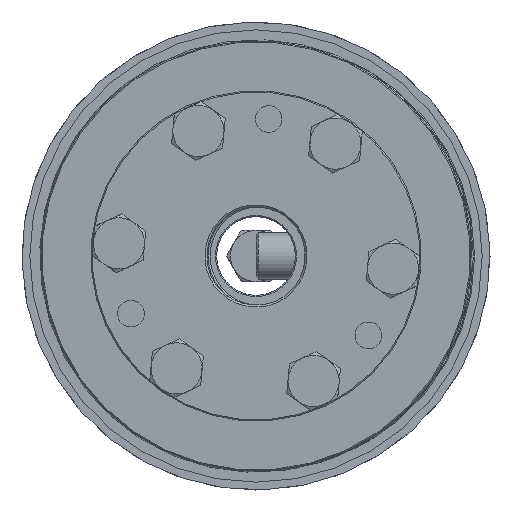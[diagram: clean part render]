
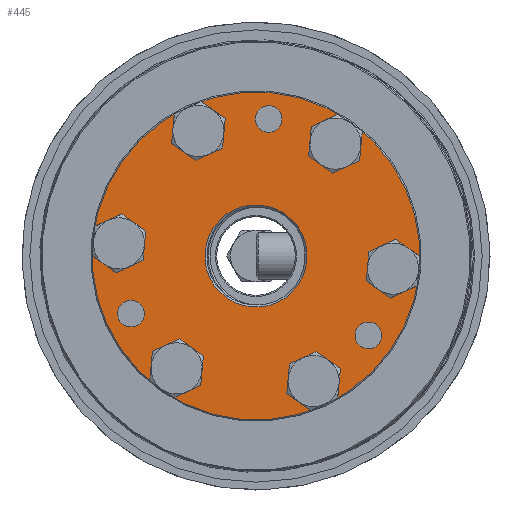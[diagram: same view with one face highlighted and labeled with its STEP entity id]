
A CAD part, left-side view. The second image highlights one B-rep face of the part: STEP entity #445.
In plain terms, the highlighted planar face has unit normal (-1, 0, 0).
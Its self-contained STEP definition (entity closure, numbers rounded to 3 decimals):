
#445 = ADVANCED_FACE( 'NONE', ( #757, #758, #759, #760, #761, #762, #763, #764, #765, #766, #767 ), #768, .F. );
#757 = FACE_OUTER_BOUND( '', #1269, .T. );
#758 = FACE_BOUND( '', #1270, .T. );
#759 = FACE_BOUND( '', #1271, .T. );
#760 = FACE_BOUND( '', #1272, .T. );
#761 = FACE_BOUND( '', #1273, .T. );
#762 = FACE_BOUND( '', #1274, .T. );
#763 = FACE_BOUND( '', #1275, .T. );
#764 = FACE_BOUND( '', #1276, .T. );
#765 = FACE_BOUND( '', #1277, .T. );
#766 = FACE_BOUND( '', #1278, .T. );
#767 = FACE_BOUND( '', #1279, .T. );
#768 = PLANE( '', #1280 );
#1269 = EDGE_LOOP( '', ( #1973 ) );
#1270 = EDGE_LOOP( '', ( #1974 ) );
#1271 = EDGE_LOOP( '', ( #1975 ) );
#1272 = EDGE_LOOP( '', ( #1976 ) );
#1273 = EDGE_LOOP( '', ( #1977 ) );
#1274 = EDGE_LOOP( '', ( #1978 ) );
#1275 = EDGE_LOOP( '', ( #1979 ) );
#1276 = EDGE_LOOP( '', ( #1980 ) );
#1277 = EDGE_LOOP( '', ( #1981 ) );
#1278 = EDGE_LOOP( '', ( #1982 ) );
#1279 = EDGE_LOOP( '', ( #1983 ) );
#1280 = AXIS2_PLACEMENT_3D( '', #1984, #1985, #1986 );
#1973 = ORIENTED_EDGE( '', *, *, #2677, .T. );
#1974 = ORIENTED_EDGE( '', *, *, #2660, .T. );
#1975 = ORIENTED_EDGE( '', *, *, #2675, .F. );
#1976 = ORIENTED_EDGE( '', *, *, #2672, .F. );
#1977 = ORIENTED_EDGE( '', *, *, #2673, .F. );
#1978 = ORIENTED_EDGE( '', *, *, #2676, .F. );
#1979 = ORIENTED_EDGE( '', *, *, #2678, .F. );
#1980 = ORIENTED_EDGE( '', *, *, #2679, .F. );
#1981 = ORIENTED_EDGE( '', *, *, #2680, .F. );
#1982 = ORIENTED_EDGE( '', *, *, #2658, .F. );
#1983 = ORIENTED_EDGE( '', *, *, #2674, .F. );
#1984 = CARTESIAN_POINT( '', ( 0., 12.5, 0. ) );
#1985 = DIRECTION( '', ( 1., 0., 0. ) );
#1986 = DIRECTION( '', ( 0., 1., 0. ) );
#2658 = EDGE_CURVE( 'NONE', #2962, #2962, #2963, .T. );
#2660 = EDGE_CURVE( 'NONE', #2966, #2966, #2967, .T. );
#2672 = EDGE_CURVE( 'NONE', #2990, #2990, #2991, .T. );
#2673 = EDGE_CURVE( 'NONE', #2992, #2992, #2993, .T. );
#2674 = EDGE_CURVE( 'NONE', #2994, #2994, #2995, .T. );
#2675 = EDGE_CURVE( 'NONE', #2996, #2996, #2997, .T. );
#2676 = EDGE_CURVE( 'NONE', #2998, #2998, #2999, .T. );
#2677 = EDGE_CURVE( 'NONE', #3000, #3000, #3001, .T. );
#2678 = EDGE_CURVE( 'NONE', #3002, #3002, #3003, .T. );
#2679 = EDGE_CURVE( 'NONE', #3004, #3004, #3005, .T. );
#2680 = EDGE_CURVE( 'NONE', #3006, #3006, #3007, .T. );
#2962 = VERTEX_POINT( '', #3450 );
#2963 = CIRCLE( '', #3451, 3.4 );
#2966 = VERTEX_POINT( '', #3454 );
#2967 = CIRCLE( '', #3455, 13. );
#2990 = VERTEX_POINT( '', #3478 );
#2991 = CIRCLE( '', #3479, 4.25 );
#2992 = VERTEX_POINT( '', #3480 );
#2993 = CIRCLE( '', #3481, 4.25 );
#2994 = VERTEX_POINT( '', #3482 );
#2995 = CIRCLE( '', #3483, 3.4 );
#2996 = VERTEX_POINT( '', #3484 );
#2997 = CIRCLE( '', #3485, 3.4 );
#2998 = VERTEX_POINT( '', #3486 );
#2999 = CIRCLE( '', #3487, 4.25 );
#3000 = VERTEX_POINT( '', #3488 );
#3001 = CIRCLE( '', #3489, 41.7 );
#3002 = VERTEX_POINT( '', #3490 );
#3003 = CIRCLE( '', #3491, 4.25 );
#3004 = VERTEX_POINT( '', #3492 );
#3005 = CIRCLE( '', #3493, 4.25 );
#3006 = VERTEX_POINT( '', #3494 );
#3007 = CIRCLE( '', #3495, 4.25 );
#3450 = CARTESIAN_POINT( '', ( 0., 17.5, 33.711 ) );
#3451 = AXIS2_PLACEMENT_3D( '', #4414, #4415, #4416 );
#3454 = CARTESIAN_POINT( '', ( 0., 0., -13. ) );
#3455 = AXIS2_PLACEMENT_3D( '', #4420, #4421, #4422 );
#3478 = CARTESIAN_POINT( '', ( 0., 0., 39.25 ) );
#3479 = AXIS2_PLACEMENT_3D( '', #4456, #4457, #4458 );
#3480 = CARTESIAN_POINT( '', ( 0., 30.311, 21.75 ) );
#3481 = AXIS2_PLACEMENT_3D( '', #4459, #4460, #4461 );
#3482 = CARTESIAN_POINT( '', ( 0., -35., 3.4 ) );
#3483 = AXIS2_PLACEMENT_3D( '', #4462, #4463, #4464 );
#3484 = CARTESIAN_POINT( '', ( 0., 17.5, -26.911 ) );
#3485 = AXIS2_PLACEMENT_3D( '', #4465, #4466, #4467 );
#3486 = CARTESIAN_POINT( '', ( 0., 30.311, -13.25 ) );
#3487 = AXIS2_PLACEMENT_3D( '', #4468, #4469, #4470 );
#3488 = CARTESIAN_POINT( '', ( 0., 0., -41.7 ) );
#3489 = AXIS2_PLACEMENT_3D( '', #4471, #4472, #4473 );
#3490 = CARTESIAN_POINT( '', ( 0., 0., -30.75 ) );
#3491 = AXIS2_PLACEMENT_3D( '', #4474, #4475, #4476 );
#3492 = CARTESIAN_POINT( '', ( 0., -30.311, -13.25 ) );
#3493 = AXIS2_PLACEMENT_3D( '', #4477, #4478, #4479 );
#3494 = CARTESIAN_POINT( '', ( 0., -30.311, 21.75 ) );
#3495 = AXIS2_PLACEMENT_3D( '', #4480, #4481, #4482 );
#4414 = CARTESIAN_POINT( '', ( 0., 17.5, 30.311 ) );
#4415 = DIRECTION( '', ( -1., 0., 0. ) );
#4416 = DIRECTION( '', ( 0., 0., 1. ) );
#4420 = CARTESIAN_POINT( '', ( 0., 0., 0. ) );
#4421 = DIRECTION( '', ( 1., 0., 0. ) );
#4422 = DIRECTION( '', ( 0., 0., -1. ) );
#4456 = CARTESIAN_POINT( '', ( 0., 0., 35. ) );
#4457 = DIRECTION( '', ( -1., 0., 0. ) );
#4458 = DIRECTION( '', ( 0., 0., 1. ) );
#4459 = CARTESIAN_POINT( '', ( 0., 30.311, 17.5 ) );
#4460 = DIRECTION( '', ( -1., 0., 0. ) );
#4461 = DIRECTION( '', ( 0., 0., 1. ) );
#4462 = CARTESIAN_POINT( '', ( 0., -35., 0. ) );
#4463 = DIRECTION( '', ( -1., 0., 0. ) );
#4464 = DIRECTION( '', ( 0., 0., 1. ) );
#4465 = CARTESIAN_POINT( '', ( 0., 17.5, -30.311 ) );
#4466 = DIRECTION( '', ( -1., 0., 0. ) );
#4467 = DIRECTION( '', ( 0., 0., 1. ) );
#4468 = CARTESIAN_POINT( '', ( 0., 30.311, -17.5 ) );
#4469 = DIRECTION( '', ( -1., 0., 0. ) );
#4470 = DIRECTION( '', ( 0., 0., 1. ) );
#4471 = CARTESIAN_POINT( '', ( 0., 0., 0. ) );
#4472 = DIRECTION( '', ( -1., 0., 0. ) );
#4473 = DIRECTION( '', ( 0., 0., -1. ) );
#4474 = CARTESIAN_POINT( '', ( 0., 0., -35. ) );
#4475 = DIRECTION( '', ( -1., 0., 0. ) );
#4476 = DIRECTION( '', ( 0., 0., 1. ) );
#4477 = CARTESIAN_POINT( '', ( 0., -30.311, -17.5 ) );
#4478 = DIRECTION( '', ( -1., 0., 0. ) );
#4479 = DIRECTION( '', ( 0., 0., 1. ) );
#4480 = CARTESIAN_POINT( '', ( 0., -30.311, 17.5 ) );
#4481 = DIRECTION( '', ( -1., 0., 0. ) );
#4482 = DIRECTION( '', ( 0., 0., 1. ) );
